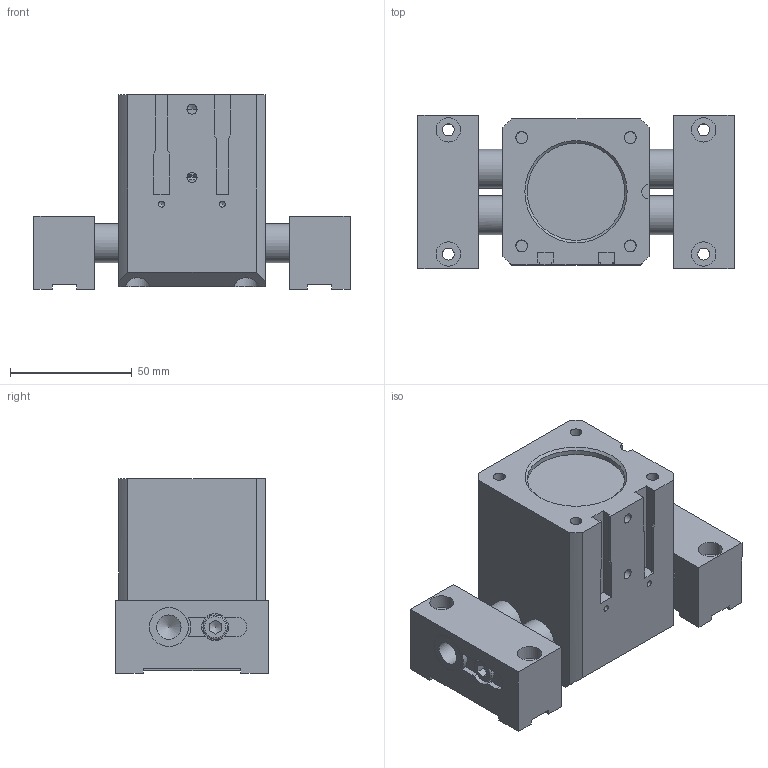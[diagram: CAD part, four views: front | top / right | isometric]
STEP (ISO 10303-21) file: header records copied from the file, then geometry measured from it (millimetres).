
FILE_DESCRIPTION((''),'2;1');
FILE_NAME('T:\CAD\Standard\Daten\3D-Datenbank\GP\4 - 3D-CAD-Daten GP 050-125\GP080\step-Daten\G-GP080-l2-GS+UB open.stp','2013-11-07T10:59:02',('Dirk'),(''),'Autodesk Inventor 2011','Autodesk Inventor 2011','');
FILE_SCHEMA(('AUTOMOTIVE_DESIGN { 1 0 10303 214 1 1 1 1 }'));
Length unit declared in the file: millimetre
Products named in the file (1): Bauteil28
Bounding box: 130.11 x 63 x 80 mm (x, y, z)
Volume: 342724 mm3; surface area: 91683.3 mm2
Topology: 22 solids, 22 shells, 411 faces, 1037 edges, 670 vertices
Faces by surface type: plane 235, cylinder 114, cone 34, torus 27, bspline 1
Full cylindrical faces by diameter (mm): 2.459 x2, 4.134 x2, 4.917 x10, 6 x6, 6.5 x4, 6.6 x2, 8.376 x1, 10 x13, 10.5 x1, 11 x8, 16 x6, 18 x7, 20 x2, 24.4 x2, 26 x1, 35 x1, 36 x1, 40 x2, 40.2 x2, 47.1 x2, 50 x5
Entity records: 12543 total; most frequent: CARTESIAN_POINT 2964, DIRECTION 1884, ORIENTED_EDGE 1650, EDGE_CURVE 825, AXIS2_PLACEMENT_3D 721, EDGE_LOOP 625, VERTEX_POINT 597, VECTOR 442
